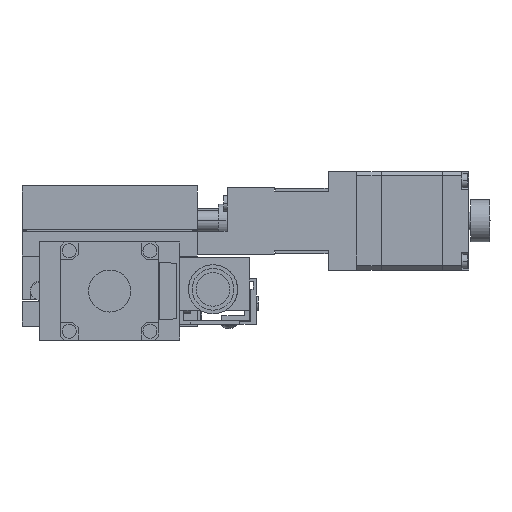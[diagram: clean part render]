
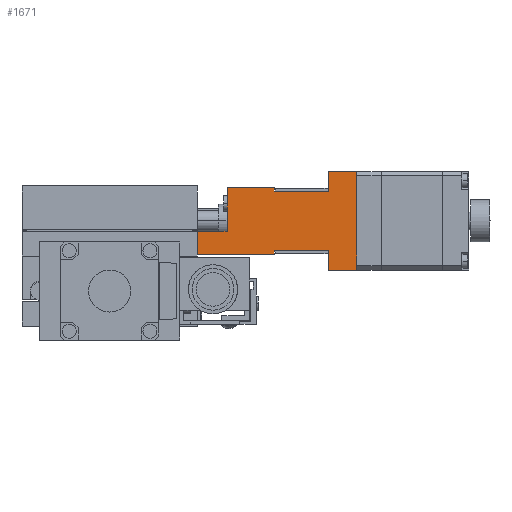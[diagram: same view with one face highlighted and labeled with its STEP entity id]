
A CAD part, left-side view. The second image highlights one B-rep face of the part: STEP entity #1671.
In plain terms, the highlighted planar face has unit normal (-1, 0, 0).
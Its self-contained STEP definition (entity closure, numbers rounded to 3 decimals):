
#1671=ADVANCED_FACE('',(#4259),#4260,.F.);
#4259=FACE_OUTER_BOUND('',#7183,.T.);
#4260=PLANE('',#7184);
#7183=EDGE_LOOP('',(#16427,#16428,#16429,#16430,#16431,#16432,#16433,#16434,#16435,#16436,#16437,#16438,#16439,#16440));
#7184=AXIS2_PLACEMENT_3D('',#16441,#16442,#16443);
#16427=ORIENTED_EDGE('',*,*,#21638,.F.);
#16428=ORIENTED_EDGE('',*,*,#21639,.T.);
#16429=ORIENTED_EDGE('',*,*,#21640,.F.);
#16430=ORIENTED_EDGE('',*,*,#21641,.F.);
#16431=ORIENTED_EDGE('',*,*,#21642,.T.);
#16432=ORIENTED_EDGE('',*,*,#21643,.T.);
#16433=ORIENTED_EDGE('',*,*,#21644,.F.);
#16434=ORIENTED_EDGE('',*,*,#21645,.F.);
#16435=ORIENTED_EDGE('',*,*,#21646,.T.);
#16436=ORIENTED_EDGE('',*,*,#21647,.T.);
#16437=ORIENTED_EDGE('',*,*,#21648,.F.);
#16438=ORIENTED_EDGE('',*,*,#21649,.T.);
#16439=ORIENTED_EDGE('',*,*,#21650,.F.);
#16440=ORIENTED_EDGE('',*,*,#21651,.F.);
#16441=CARTESIAN_POINT('',(-20.,-62.5,39.5));
#16442=DIRECTION('',(1.0,0.,0.));
#16443=DIRECTION('',(0.,0.,-1.0));
#21638=EDGE_CURVE('',#26933,#26934,#26935,.T.);
#21639=EDGE_CURVE('',#26933,#26936,#26937,.T.);
#21640=EDGE_CURVE('',#26938,#26936,#26939,.T.);
#21641=EDGE_CURVE('',#26940,#26938,#26941,.T.);
#21642=EDGE_CURVE('',#26940,#26942,#26943,.T.);
#21643=EDGE_CURVE('',#26942,#26944,#26945,.T.);
#21644=EDGE_CURVE('',#26946,#26944,#26947,.T.);
#21645=EDGE_CURVE('',#26948,#26946,#26949,.T.);
#21646=EDGE_CURVE('',#26948,#26950,#26951,.T.);
#21647=EDGE_CURVE('',#26950,#26952,#26953,.T.);
#21648=EDGE_CURVE('',#26954,#26952,#26955,.T.);
#21649=EDGE_CURVE('',#26954,#26956,#26957,.T.);
#21650=EDGE_CURVE('',#26958,#26956,#26959,.T.);
#21651=EDGE_CURVE('',#26934,#26958,#26960,.T.);
#26933=VERTEX_POINT('',#34482);
#26934=VERTEX_POINT('',#34483);
#26935=LINE('',#34484,#34485);
#26936=VERTEX_POINT('',#34486);
#26937=LINE('',#34487,#34488);
#26938=VERTEX_POINT('',#34489);
#26939=LINE('',#34490,#34491);
#26940=VERTEX_POINT('',#34492);
#26941=LINE('',#34493,#34494);
#26942=VERTEX_POINT('',#34495);
#26943=LINE('',#34496,#34497);
#26944=VERTEX_POINT('',#34498);
#26945=LINE('',#34499,#34500);
#26946=VERTEX_POINT('',#34501);
#26947=LINE('',#34502,#34503);
#26948=VERTEX_POINT('',#34504);
#26949=LINE('',#34505,#34506);
#26950=VERTEX_POINT('',#34507);
#26951=LINE('',#34508,#34509);
#26952=VERTEX_POINT('',#34510);
#26953=LINE('',#34511,#34512);
#26954=VERTEX_POINT('',#34513);
#26955=LINE('',#34514,#34515);
#26956=VERTEX_POINT('',#34516);
#26957=LINE('',#34517,#34518);
#26958=VERTEX_POINT('',#34519);
#26959=LINE('',#34520,#34521);
#26960=LINE('',#34522,#34523);
#34482=CARTESIAN_POINT('',(-20.,-62.5,21.5));
#34483=CARTESIAN_POINT('',(-20.,-47.,21.5));
#34484=CARTESIAN_POINT('',(-20.,-62.5,21.5));
#34485=VECTOR('',#40864,1000.0);
#34486=CARTESIAN_POINT('',(-20.,-62.5,16.0));
#34487=CARTESIAN_POINT('',(-20.,-62.5,44.0));
#34488=VECTOR('',#40865,1000.0);
#34489=CARTESIAN_POINT('',(-20.,-70.5,16.0));
#34490=CARTESIAN_POINT('',(-20.,-70.5,16.0));
#34491=VECTOR('',#40866,1000.0);
#34492=CARTESIAN_POINT('',(-20.,-70.5,44.0));
#34493=CARTESIAN_POINT('',(-20.,-70.5,44.0));
#34494=VECTOR('',#40867,1000.0);
#34495=CARTESIAN_POINT('',(-20.,-62.5,44.0));
#34496=CARTESIAN_POINT('',(-20.,-70.5,44.0));
#34497=VECTOR('',#40868,1000.0);
#34498=CARTESIAN_POINT('',(-20.,-62.5,38.5));
#34499=CARTESIAN_POINT('',(-20.,-62.5,44.0));
#34500=VECTOR('',#40869,1000.0);
#34501=CARTESIAN_POINT('',(-20.,-47.,38.5));
#34502=CARTESIAN_POINT('',(-20.,-47.,38.5));
#34503=VECTOR('',#40870,1000.0);
#34504=CARTESIAN_POINT('',(-20.,-47.,39.5));
#34505=CARTESIAN_POINT('',(-20.,-47.,39.5));
#34506=VECTOR('',#40871,1000.0);
#34507=CARTESIAN_POINT('',(-20.,-33.5,39.5));
#34508=CARTESIAN_POINT('',(-20.,-62.5,39.5));
#34509=VECTOR('',#40872,1000.0);
#34510=CARTESIAN_POINT('',(-20.,-33.5,27.0));
#34511=CARTESIAN_POINT('',(-20.,-33.5,39.5));
#34512=VECTOR('',#40873,1000.0);
#34513=CARTESIAN_POINT('',(-20.,-25.,27.0));
#34514=CARTESIAN_POINT('',(-20.,-25.,27.0));
#34515=VECTOR('',#40874,1000.0);
#34516=CARTESIAN_POINT('',(-20.,-25.,20.5));
#34517=CARTESIAN_POINT('',(-20.,-25.,27.0));
#34518=VECTOR('',#40875,1000.0);
#34519=CARTESIAN_POINT('',(-20.,-47.,20.5));
#34520=CARTESIAN_POINT('',(-20.,-62.5,20.5));
#34521=VECTOR('',#40876,1000.0);
#34522=CARTESIAN_POINT('',(-20.,-47.,21.5));
#34523=VECTOR('',#40877,1000.0);
#40864=DIRECTION('',(0.,1.0,0.));
#40865=DIRECTION('',(0.,0.,-1.0));
#40866=DIRECTION('',(0.,1.0,0.));
#40867=DIRECTION('',(0.,0.,-1.0));
#40868=DIRECTION('',(0.,1.0,0.));
#40869=DIRECTION('',(0.,0.,-1.0));
#40870=DIRECTION('',(0.,-1.0,0.));
#40871=DIRECTION('',(0.,0.,-1.0));
#40872=DIRECTION('',(0.,1.0,0.));
#40873=DIRECTION('',(0.,0.,-1.0));
#40874=DIRECTION('',(0.,-1.0,0.));
#40875=DIRECTION('',(0.,0.,-1.0));
#40876=DIRECTION('',(0.,1.0,0.));
#40877=DIRECTION('',(0.,0.,-1.0));
